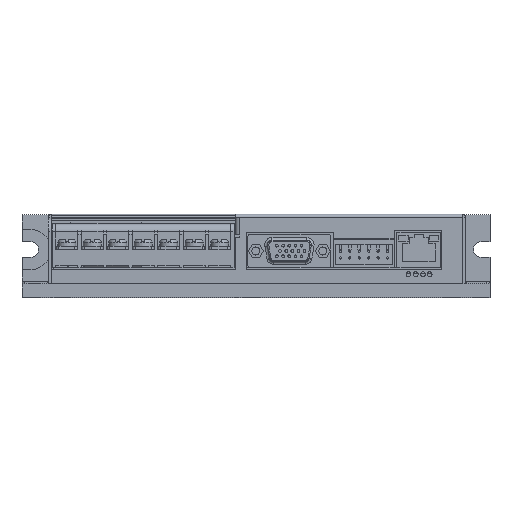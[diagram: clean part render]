
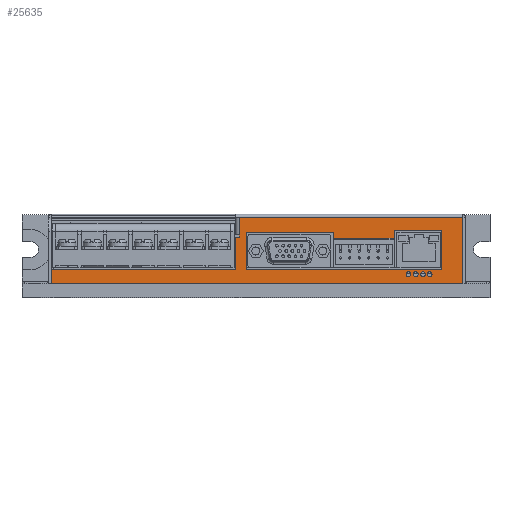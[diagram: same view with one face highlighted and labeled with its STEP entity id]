
A CAD part, top view. The second image highlights one B-rep face of the part: STEP entity #25635.
In plain terms, the highlighted planar face has unit normal (0, 0, 1).
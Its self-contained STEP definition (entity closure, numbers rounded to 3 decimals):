
#19423=DIRECTION('',(-1.,0.,0.));
#19424=VECTOR('',#19423,83.3);
#19425=CARTESIAN_POINT('',(77.1,17.4,48.5));
#19426=LINE('',#19425,#19424);
#21455=DIRECTION('',(1.,0.,0.));
#21456=VECTOR('',#21455,17.9);
#21457=CARTESIAN_POINT('',(51.5,12.5,48.5));
#21458=LINE('',#21457,#21456);
#21459=DIRECTION('',(0.,1.,0.));
#21460=VECTOR('',#21459,3.);
#21461=CARTESIAN_POINT('',(51.5,9.5,48.5));
#21462=LINE('',#21461,#21460);
#21463=DIRECTION('',(1.,0.,0.));
#21464=VECTOR('',#21463,22.4);
#21465=CARTESIAN_POINT('',(29.1,9.5,48.5));
#21466=LINE('',#21465,#21464);
#21467=DIRECTION('',(0.,-1.,0.));
#21468=VECTOR('',#21467,2.35);
#21469=CARTESIAN_POINT('',(29.1,11.85,48.5));
#21470=LINE('',#21469,#21468);
#21471=DIRECTION('',(1.,0.,0.));
#21472=VECTOR('',#21471,32.635);
#21473=CARTESIAN_POINT('',(-3.535,11.85,48.5));
#21474=LINE('',#21473,#21472);
#21475=DIRECTION('',(0.,1.,0.));
#21476=VECTOR('',#21475,14.05);
#21477=CARTESIAN_POINT('',(-3.535,-2.2,48.5));
#21478=LINE('',#21477,#21476);
#21479=DIRECTION('',(-1.,0.,0.));
#21480=VECTOR('',#21479,72.935);
#21481=CARTESIAN_POINT('',(69.4,-2.2,48.5));
#21482=LINE('',#21481,#21480);
#21483=DIRECTION('',(0.,-1.,0.));
#21484=VECTOR('',#21483,14.7);
#21485=CARTESIAN_POINT('',(69.4,12.5,48.5));
#21486=LINE('',#21485,#21484);
#21487=CARTESIAN_POINT('',(56.884,-3.9,48.5));
#21488=DIRECTION('',(0.,0.,1.));
#21489=DIRECTION('',(-1.,0.,0.));
#21490=AXIS2_PLACEMENT_3D('',#21487,#21488,#21489);
#21492=CARTESIAN_POINT('',(56.884,-3.9,48.5));
#21493=DIRECTION('',(0.,0.,1.));
#21494=DIRECTION('',(1.,0.,0.));
#21495=AXIS2_PLACEMENT_3D('',#21492,#21493,#21494);
#21497=CARTESIAN_POINT('',(59.584,-3.9,48.5));
#21498=DIRECTION('',(0.,0.,1.));
#21499=DIRECTION('',(-1.,0.,0.));
#21500=AXIS2_PLACEMENT_3D('',#21497,#21498,#21499);
#21502=CARTESIAN_POINT('',(59.584,-3.9,48.5));
#21503=DIRECTION('',(0.,0.,1.));
#21504=DIRECTION('',(1.,0.,0.));
#21505=AXIS2_PLACEMENT_3D('',#21502,#21503,#21504);
#21507=CARTESIAN_POINT('',(62.284,-3.9,48.5));
#21508=DIRECTION('',(0.,0.,1.));
#21509=DIRECTION('',(-1.,0.,0.));
#21510=AXIS2_PLACEMENT_3D('',#21507,#21508,#21509);
#21512=CARTESIAN_POINT('',(62.284,-3.9,48.5));
#21513=DIRECTION('',(0.,0.,1.));
#21514=DIRECTION('',(1.,0.,0.));
#21515=AXIS2_PLACEMENT_3D('',#21512,#21513,#21514);
#21517=CARTESIAN_POINT('',(64.784,-3.9,48.5));
#21518=DIRECTION('',(0.,0.,1.));
#21519=DIRECTION('',(-1.,0.,0.));
#21520=AXIS2_PLACEMENT_3D('',#21517,#21518,#21519);
#21522=CARTESIAN_POINT('',(64.784,-3.9,48.5));
#21523=DIRECTION('',(0.,0.,1.));
#21524=DIRECTION('',(1.,0.,0.));
#21525=AXIS2_PLACEMENT_3D('',#21522,#21523,#21524);
#21527=DIRECTION('',(0.,-1.,0.));
#21528=VECTOR('',#21527,1.);
#21529=CARTESIAN_POINT('',(-6.2,10.8,48.5));
#21530=LINE('',#21529,#21528);
#21531=DIRECTION('',(0.,1.,0.));
#21532=VECTOR('',#21531,24.9);
#21533=CARTESIAN_POINT('',(77.1,-7.5,48.5));
#21534=LINE('',#21533,#21532);
#21535=DIRECTION('',(1.,0.,0.));
#21536=VECTOR('',#21535,153.5);
#21537=CARTESIAN_POINT('',(-76.4,-7.5,48.5));
#21538=LINE('',#21537,#21536);
#21539=DIRECTION('',(0.,-1.,0.));
#21540=VECTOR('',#21539,5.3);
#21541=CARTESIAN_POINT('',(-76.4,-2.2,48.5));
#21542=LINE('',#21541,#21540);
#21543=DIRECTION('',(1.,0.,0.));
#21544=VECTOR('',#21543,68.7);
#21545=CARTESIAN_POINT('',(-76.4,-2.2,48.5));
#21546=LINE('',#21545,#21544);
#21547=DIRECTION('',(0.,-1.,0.));
#21548=VECTOR('',#21547,12.);
#21549=CARTESIAN_POINT('',(-7.7,9.8,48.5));
#21550=LINE('',#21549,#21548);
#21551=DIRECTION('',(1.,0.,0.));
#21552=VECTOR('',#21551,1.5);
#21553=CARTESIAN_POINT('',(-7.7,9.8,48.5));
#21554=LINE('',#21553,#21552);
#21783=DIRECTION('',(0.,1.,0.));
#21784=VECTOR('',#21783,6.6);
#21785=CARTESIAN_POINT('',(-6.2,10.8,48.5));
#21786=LINE('',#21785,#21784);
#22159=CARTESIAN_POINT('',(-76.4,-7.5,48.5));
#22160=CARTESIAN_POINT('',(77.1,-7.5,48.5));
#22161=VERTEX_POINT('',#22159);
#22162=VERTEX_POINT('',#22160);
#22163=CARTESIAN_POINT('',(77.1,17.4,48.5));
#22164=VERTEX_POINT('',#22163);
#22171=CARTESIAN_POINT('',(51.5,12.5,48.5));
#22172=CARTESIAN_POINT('',(69.4,12.5,48.5));
#22173=VERTEX_POINT('',#22171);
#22174=VERTEX_POINT('',#22172);
#22175=CARTESIAN_POINT('',(69.4,-2.2,48.5));
#22176=VERTEX_POINT('',#22175);
#22177=CARTESIAN_POINT('',(-3.535,-2.2,48.5));
#22178=VERTEX_POINT('',#22177);
#22179=CARTESIAN_POINT('',(29.1,9.5,48.5));
#22180=CARTESIAN_POINT('',(51.5,9.5,48.5));
#22181=VERTEX_POINT('',#22179);
#22182=VERTEX_POINT('',#22180);
#22219=CARTESIAN_POINT('',(55.984,-3.9,48.5));
#22220=CARTESIAN_POINT('',(57.784,-3.9,48.5));
#22221=VERTEX_POINT('',#22219);
#22222=VERTEX_POINT('',#22220);
#22223=CARTESIAN_POINT('',(58.684,-3.9,48.5));
#22224=CARTESIAN_POINT('',(60.484,-3.9,48.5));
#22225=VERTEX_POINT('',#22223);
#22226=VERTEX_POINT('',#22224);
#22227=CARTESIAN_POINT('',(61.384,-3.9,48.5));
#22228=CARTESIAN_POINT('',(63.184,-3.9,48.5));
#22229=VERTEX_POINT('',#22227);
#22230=VERTEX_POINT('',#22228);
#22319=CARTESIAN_POINT('',(63.884,-3.9,48.5));
#22320=CARTESIAN_POINT('',(65.684,-3.9,48.5));
#22321=VERTEX_POINT('',#22319);
#22322=VERTEX_POINT('',#22320);
#22327=CARTESIAN_POINT('',(-3.535,11.85,48.5));
#22328=VERTEX_POINT('',#22327);
#22329=CARTESIAN_POINT('',(29.1,11.85,48.5));
#22330=VERTEX_POINT('',#22329);
#22415=CARTESIAN_POINT('',(-76.4,-2.2,48.5));
#22416=CARTESIAN_POINT('',(-7.7,-2.2,48.5));
#22417=VERTEX_POINT('',#22415);
#22418=VERTEX_POINT('',#22416);
#22504=CARTESIAN_POINT('',(-6.2,17.4,48.5));
#22505=VERTEX_POINT('',#22504);
#22524=CARTESIAN_POINT('',(-6.2,10.8,48.5));
#22525=CARTESIAN_POINT('',(-6.2,9.8,48.5));
#22526=VERTEX_POINT('',#22524);
#22527=VERTEX_POINT('',#22525);
#22528=CARTESIAN_POINT('',(-7.7,9.8,48.5));
#22529=VERTEX_POINT('',#22528);
#25570=CARTESIAN_POINT('',(-76.4,18.5,48.5));
#25571=DIRECTION('',(0.,0.,1.));
#25572=DIRECTION('',(-1.,0.,0.));
#25573=AXIS2_PLACEMENT_3D('',#25570,#25571,#25572);
#25574=PLANE('',#25573);
#25576=ORIENTED_EDGE('',*,*,#25575,.F.);
#25578=ORIENTED_EDGE('',*,*,#25577,.T.);
#25579=ORIENTED_EDGE('',*,*,#22638,.F.);
#25580=ORIENTED_EDGE('',*,*,#25560,.F.);
#25582=ORIENTED_EDGE('',*,*,#25581,.F.);
#25584=ORIENTED_EDGE('',*,*,#25583,.F.);
#25586=ORIENTED_EDGE('',*,*,#25585,.T.);
#25588=ORIENTED_EDGE('',*,*,#25587,.F.);
#25590=ORIENTED_EDGE('',*,*,#25589,.T.);
#25591=EDGE_LOOP('',(#25576,#25578,#25579,#25580,#25582,#25584,#25586,#25588,
#25590));
#25592=FACE_OUTER_BOUND('',#25591,.F.);
#25594=ORIENTED_EDGE('',*,*,#25593,.T.);
#25596=ORIENTED_EDGE('',*,*,#25595,.T.);
#25597=EDGE_LOOP('',(#25594,#25596));
#25598=FACE_BOUND('',#25597,.F.);
#25600=ORIENTED_EDGE('',*,*,#25599,.T.);
#25602=ORIENTED_EDGE('',*,*,#25601,.T.);
#25603=EDGE_LOOP('',(#25600,#25602));
#25604=FACE_BOUND('',#25603,.F.);
#25606=ORIENTED_EDGE('',*,*,#25605,.T.);
#25608=ORIENTED_EDGE('',*,*,#25607,.T.);
#25609=EDGE_LOOP('',(#25606,#25608));
#25610=FACE_BOUND('',#25609,.F.);
#25612=ORIENTED_EDGE('',*,*,#25611,.T.);
#25614=ORIENTED_EDGE('',*,*,#25613,.T.);
#25615=EDGE_LOOP('',(#25612,#25614));
#25616=FACE_BOUND('',#25615,.F.);
#25618=ORIENTED_EDGE('',*,*,#25617,.F.);
#25620=ORIENTED_EDGE('',*,*,#25619,.F.);
#25622=ORIENTED_EDGE('',*,*,#25621,.F.);
#25624=ORIENTED_EDGE('',*,*,#25623,.F.);
#25626=ORIENTED_EDGE('',*,*,#25625,.F.);
#25628=ORIENTED_EDGE('',*,*,#25627,.F.);
#25630=ORIENTED_EDGE('',*,*,#25629,.F.);
#25632=ORIENTED_EDGE('',*,*,#25631,.F.);
#25633=EDGE_LOOP('',(#25618,#25620,#25622,#25624,#25626,#25628,#25630,#25632));
#25634=FACE_BOUND('',#25633,.F.);
#25635=ADVANCED_FACE('',(#25592,#25598,#25604,#25610,#25616,#25634),#25574,.T.);
#21491=CIRCLE('',#21490,0.9);
#21496=CIRCLE('',#21495,0.9);
#21501=CIRCLE('',#21500,0.9);
#21506=CIRCLE('',#21505,0.9);
#21511=CIRCLE('',#21510,0.9);
#21516=CIRCLE('',#21515,0.9);
#21521=CIRCLE('',#21520,0.9);
#21526=CIRCLE('',#21525,0.9);
#22638=EDGE_CURVE('',#22164,#22505,#19426,.T.);
#25560=EDGE_CURVE('',#22162,#22164,#21534,.T.);
#25575=EDGE_CURVE('',#22526,#22527,#21530,.T.);
#25577=EDGE_CURVE('',#22526,#22505,#21786,.T.);
#25581=EDGE_CURVE('',#22161,#22162,#21538,.T.);
#25583=EDGE_CURVE('',#22417,#22161,#21542,.T.);
#25585=EDGE_CURVE('',#22417,#22418,#21546,.T.);
#25587=EDGE_CURVE('',#22529,#22418,#21550,.T.);
#25589=EDGE_CURVE('',#22529,#22527,#21554,.T.);
#25593=EDGE_CURVE('',#22221,#22222,#21491,.T.);
#25595=EDGE_CURVE('',#22222,#22221,#21496,.T.);
#25599=EDGE_CURVE('',#22225,#22226,#21501,.T.);
#25601=EDGE_CURVE('',#22226,#22225,#21506,.T.);
#25605=EDGE_CURVE('',#22229,#22230,#21511,.T.);
#25607=EDGE_CURVE('',#22230,#22229,#21516,.T.);
#25611=EDGE_CURVE('',#22321,#22322,#21521,.T.);
#25613=EDGE_CURVE('',#22322,#22321,#21526,.T.);
#25617=EDGE_CURVE('',#22173,#22174,#21458,.T.);
#25619=EDGE_CURVE('',#22182,#22173,#21462,.T.);
#25621=EDGE_CURVE('',#22181,#22182,#21466,.T.);
#25623=EDGE_CURVE('',#22330,#22181,#21470,.T.);
#25625=EDGE_CURVE('',#22328,#22330,#21474,.T.);
#25627=EDGE_CURVE('',#22178,#22328,#21478,.T.);
#25629=EDGE_CURVE('',#22176,#22178,#21482,.T.);
#25631=EDGE_CURVE('',#22174,#22176,#21486,.T.);
